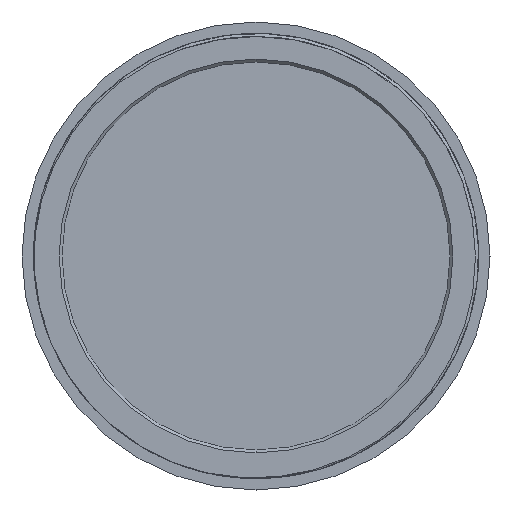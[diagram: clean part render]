
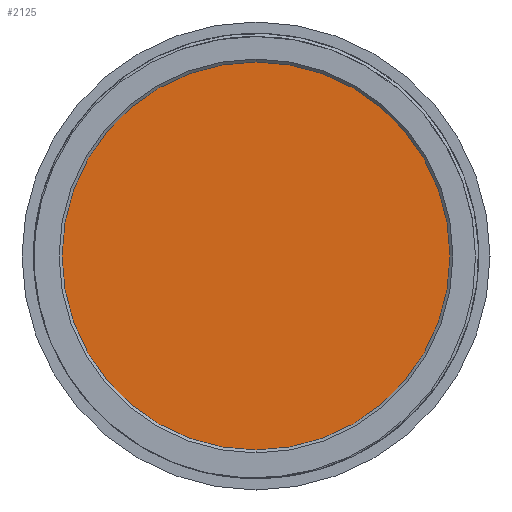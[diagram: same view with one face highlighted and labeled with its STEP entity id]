
A CAD part, front view. The second image highlights one B-rep face of the part: STEP entity #2125.
In plain terms, the highlighted planar face has unit normal (0, -1, 0).
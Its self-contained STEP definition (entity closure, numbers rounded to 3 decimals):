
#299 = DIRECTION ( 'NONE',  ( 0., 0., 1. ) ) ;
#554 = AXIS2_PLACEMENT_3D ( 'NONE', #2858, #804, #1715 ) ;
#804 = DIRECTION ( 'NONE',  ( 0., 1., 0. ) ) ;
#926 = CARTESIAN_POINT ( 'NONE',  ( 0., 2.3, -17.75 ) ) ;
#944 = CARTESIAN_POINT ( 'NONE',  ( 0., 2.3, 17.75 ) ) ;
#1202 = PLANE ( 'NONE',  #2940 ) ;
#1279 = DIRECTION ( 'NONE',  ( 0., 1., 0. ) ) ;
#1386 = VERTEX_POINT ( 'NONE', #926 ) ;
#1450 = EDGE_LOOP ( 'NONE', ( #2257, #2201 ) ) ;
#1685 = EDGE_CURVE ( 'NONE', #2165, #1386, #1837, .T. ) ;
#1715 = DIRECTION ( 'NONE',  ( 0., 0., 1. ) ) ;
#1837 = CIRCLE ( 'NONE', #554, 17.75 ) ;
#2036 = EDGE_CURVE ( 'NONE', #1386, #2165, #2307, .T. ) ;
#2100 = CARTESIAN_POINT ( 'NONE',  ( 0., 2.3, 0. ) ) ;
#2125 = ADVANCED_FACE ( 'NONE', ( #2552 ), #1202, .F. ) ;
#2165 = VERTEX_POINT ( 'NONE', #944 ) ;
#2201 = ORIENTED_EDGE ( 'NONE', *, *, #1685, .F. ) ;
#2257 = ORIENTED_EDGE ( 'NONE', *, *, #2036, .F. ) ;
#2307 = CIRCLE ( 'NONE', #2459, 17.75 ) ;
#2344 = DIRECTION ( 'NONE',  ( 0., 1., 0. ) ) ;
#2459 = AXIS2_PLACEMENT_3D ( 'NONE', #2669, #1279, #2603 ) ;
#2552 = FACE_OUTER_BOUND ( 'NONE', #1450, .T. ) ;
#2603 = DIRECTION ( 'NONE',  ( 0., 0., 1. ) ) ;
#2669 = CARTESIAN_POINT ( 'NONE',  ( 0., 2.3, 0. ) ) ;
#2858 = CARTESIAN_POINT ( 'NONE',  ( 0., 2.3, 0. ) ) ;
#2940 = AXIS2_PLACEMENT_3D ( 'NONE', #2100, #2344, #299 ) ;
